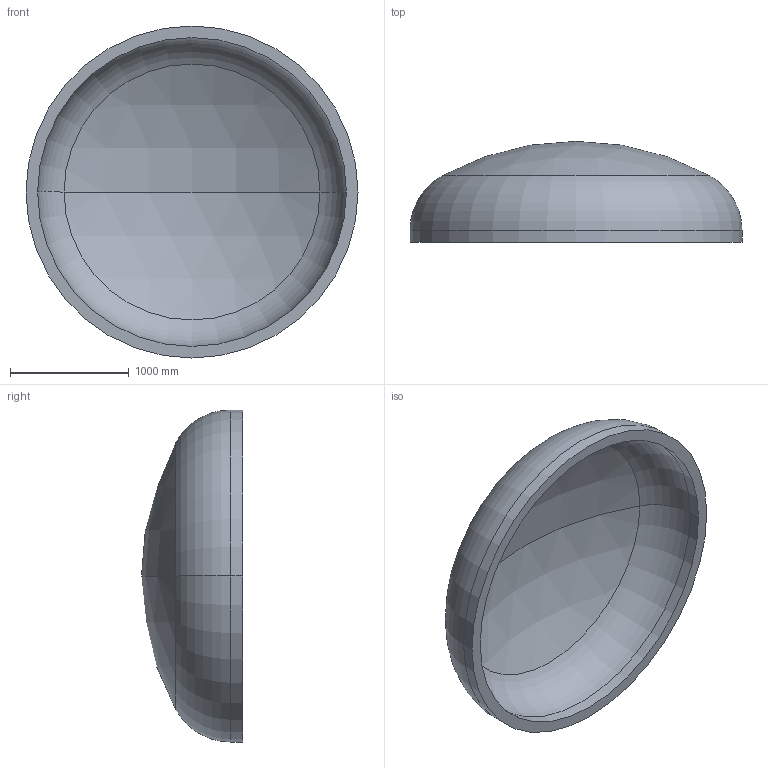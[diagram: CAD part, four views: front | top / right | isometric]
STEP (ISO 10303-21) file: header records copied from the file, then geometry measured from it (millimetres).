
FILE_DESCRIPTION (( 'STEP AP203' ), '1' );
FILE_NAME ('DIN 28013 Korbbogenform_-_Boden DIN 28013 - 2800 x 100 - I - s=98.step', '2016-07-01T17:17:21', ( '' ), ( '' ), 'SwSTEP 2.0', 'SolidWorks 2013', '' );
FILE_SCHEMA (( 'CONFIG_CONTROL_DESIGN' ));
Length unit declared in the file: millimetre
Products named in the file (1): DIN 28013 Korbbogenform_-_Boden DIN 28013 - 2800 x 100 - I - s=98
Bounding box: 2800 x 851.9 x 2800 mm (x, y, z)
Volume: 881287047.9 mm3; surface area: 18837440 mm2
Topology: 1 solids, 1 shells, 13 faces, 24 edges, 14 vertices
Faces by surface type: torus 4, cylinder 4, sphere 4, plane 1
Entity records: 407 total; most frequent: DIRECTION 72, CARTESIAN_POINT 52, ORIENTED_EDGE 48, AXIS2_PLACEMENT_3D 34, EDGE_CURVE 24, CIRCLE 20, EDGE_LOOP 14, VERTEX_POINT 14
